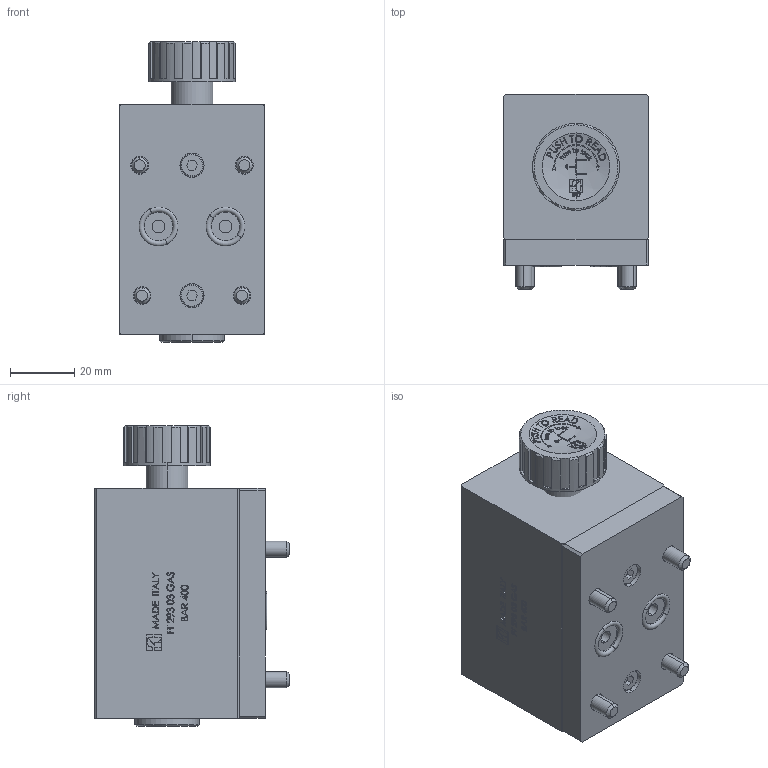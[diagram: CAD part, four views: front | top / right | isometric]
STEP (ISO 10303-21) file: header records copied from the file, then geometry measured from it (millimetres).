
FILE_DESCRIPTION (( 'STEP AP214' ), '1' );
FILE_NAME ('293-03.STEP', '2014-06-11T09:27:38', ( '' ), ( '' ), 'SwSTEP 2.0', 'SolidWorks 2014', '' );
FILE_SCHEMA (( 'AUTOMOTIVE_DESIGN' ));
Length unit declared in the file: millimetre
Products named in the file (8): VITE TCEI  M4x10 UNI 5931_Semplice; VITE TCEI M5x55 UNI5931_Semplice; OR2037; PomoloFT292; 293-021-00-0-14; 293-040-00-0-03; 293-100-00-0-03; 293-03
Assembly tree (12 placements, depth 2):
  293-03
    293-100-00-0-03
    293-040-00-0-03
    293-021-00-0-14
    PomoloFT292
    OR2037  x2
    VITE TCEI M5x55 UNI5931_Semplice  x4
    VITE TCEI  M4x10 UNI 5931_Semplice  x2
Bounding box: 45 x 60.5 x 93.5 mm (x, y, z)
Volume: 175889.4 mm3; surface area: 40879.1 mm2
Topology: 12 solids, 12 shells, 1089 faces, 2791 edges, 1825 vertices
Faces by surface type: plane 665, bspline 214, cylinder 125, cone 45, torus 22, sphere 18
Entity records: 50716 total; most frequent: CARTESIAN_POINT 18576, ORIENTED_EDGE 5226, DIRECTION 4292, EDGE_CURVE 2613, VERTEX_POINT 1717, VECTOR 1644, LINE 1644, AXIS2_PLACEMENT_3D 1324
